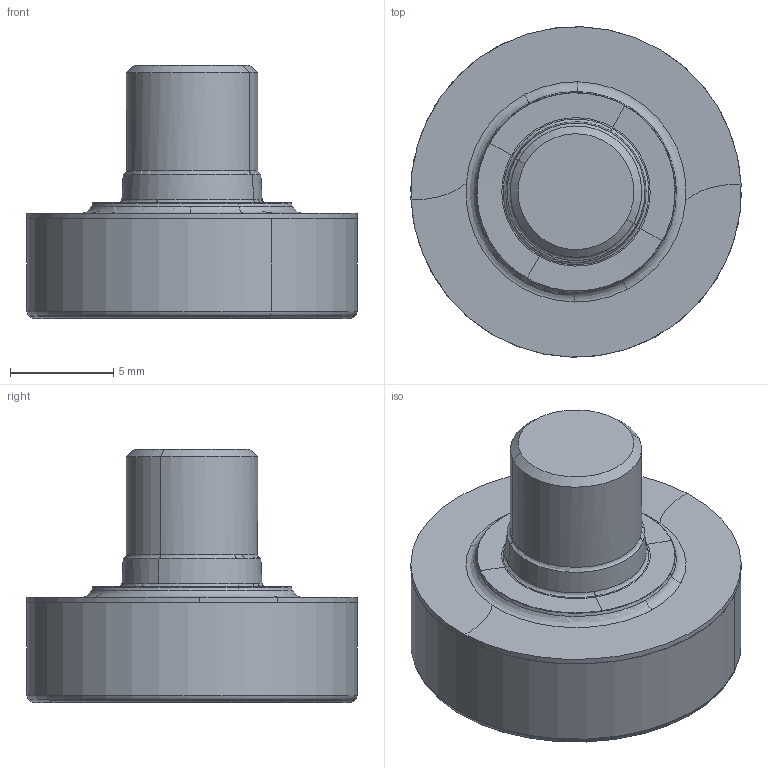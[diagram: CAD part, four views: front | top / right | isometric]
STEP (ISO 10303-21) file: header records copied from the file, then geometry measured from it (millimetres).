
FILE_DESCRIPTION(('CATIA V5 STEP','CAx-IF Rec.Pracs.--- Model Styling and Organization---1.2---2011-12-15'),'2;1');
FILE_NAME('N:\data\isr\design\special1\users\NATALY_B\Tal\NPA\5668598\MM FM160-48R0.4-06T06-L.stp','2018-07-02T12:18:25+00:00',('none'),('none'),'CATIA Version 5 Release 21 SP 5 (IN-10)','CATIA V5 STEP AP214','none');
FILE_SCHEMA(('AUTOMOTIVE_DESIGN { 1 0 10303 214 1 1 1 1 }'));
Length unit declared in the file: millimetre
Products named in the file (1): MM FM160-48R0.4-06T06
Bounding box: 16 x 16 x 12.25 mm (x, y, z)
Volume: 1218.7 mm3; surface area: 1339.4 mm2
Topology: 2 solids, 2 shells, 91 faces, 214 edges, 129 vertices
Faces by surface type: revolution 40, bspline 28, plane 7, cone 4, cylinder 4, torus 4, extrusion 4
Entity records: 2977 total; most frequent: CARTESIAN_POINT 1237, ORIENTED_EDGE 412, EDGE_CURVE 206, DIRECTION 178, VERTEX_POINT 120, EDGE_LOOP 94, AXIS2_PLACEMENT_3D 93, ADVANCED_FACE 91
